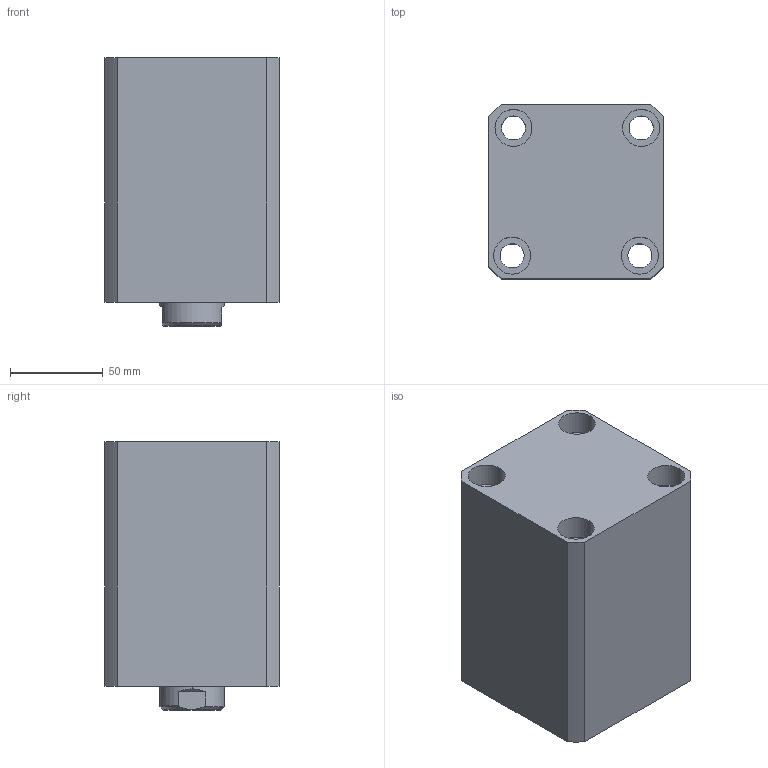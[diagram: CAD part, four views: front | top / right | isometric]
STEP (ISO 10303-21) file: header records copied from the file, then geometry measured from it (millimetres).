
FILE_DESCRIPTION (( 'STEP AP214' ), '1' );
FILE_NAME ('chtb-sdma63x65n_asm.STEP', '2018-05-16T02:32:48', ( 'Windows' ), ( 'Microsoft' ), 'SwSTEP 2.0', 'SolidWorks 2015', '' );
FILE_SCHEMA (( 'AUTOMOTIVE_DESIGN' ));
Length unit declared in the file: millimetre
Products named in the file (4): CHTB-SDMA63X65NBT; CHTB63X65NHSG; CHTB-63QG; chtb-sdma63x65n_asm
Assembly tree (3 placements, depth 2):
  chtb-sdma63x65n_asm
    CHTB-63QG
    CHTB63X65NHSG
    CHTB-SDMA63X65NBT
Bounding box: 94 x 94 x 145 mm (x, y, z)
Volume: 926220.7 mm3; surface area: 158311.7 mm2
Topology: 3 solids, 3 shells, 165 faces, 472 edges, 321 vertices
Faces by surface type: cylinder 107, plane 31, bspline 12, cone 8, torus 7
Entity records: 17727 total; most frequent: CARTESIAN_POINT 13576, ORIENTED_EDGE 932, DIRECTION 716, EDGE_CURVE 466, VERTEX_POINT 321, AXIS2_PLACEMENT_3D 288, EDGE_LOOP 197, ADVANCED_FACE 165
